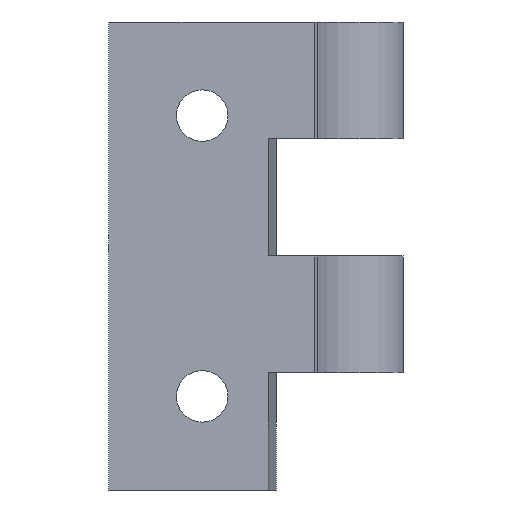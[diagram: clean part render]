
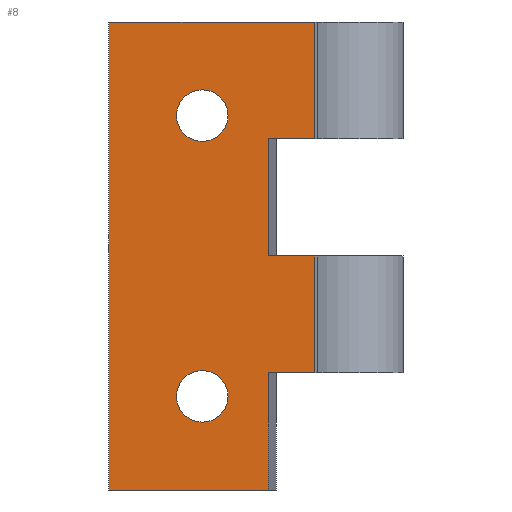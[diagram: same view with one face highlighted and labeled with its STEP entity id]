
A CAD part, front view. The second image highlights one B-rep face of the part: STEP entity #8.
In plain terms, the highlighted planar face has unit normal (0, -1, 0).
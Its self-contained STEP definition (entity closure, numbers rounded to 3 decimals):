
#3 = VERTEX_POINT ( 'NONE', #426 ) ;
#8 = ADVANCED_FACE ( 'NONE', ( #79, #70, #640 ), #489, .F. ) ;
#13 = CIRCLE ( 'NONE', #625, 2.75 ) ;
#14 = LINE ( 'NONE', #423, #365 ) ;
#19 = DIRECTION ( 'NONE',  ( 1., 0., 0. ) ) ;
#20 = CARTESIAN_POINT ( 'NONE',  ( -39.342, 5.755, 50. ) ) ;
#21 = AXIS2_PLACEMENT_3D ( 'NONE', #99, #498, #396 ) ;
#34 = CARTESIAN_POINT ( 'NONE',  ( -39.342, 5.755, 37.5 ) ) ;
#40 = VERTEX_POINT ( 'NONE', #585 ) ;
#48 = EDGE_CURVE ( 'NONE', #257, #393, #172, .T. ) ;
#54 = ORIENTED_EDGE ( 'NONE', *, *, #509, .F. ) ;
#70 = FACE_BOUND ( 'NONE', #106, .T. ) ;
#76 = VECTOR ( 'NONE', #594, 1000. ) ;
#79 = FACE_BOUND ( 'NONE', #375, .T. ) ;
#83 = LINE ( 'NONE', #348, #260 ) ;
#86 = LINE ( 'NONE', #34, #515 ) ;
#99 = CARTESIAN_POINT ( 'NONE',  ( -51.342, 5.755, 40. ) ) ;
#106 = EDGE_LOOP ( 'NONE', ( #189 ) ) ;
#107 = CARTESIAN_POINT ( 'NONE',  ( -54.092, 5.755, 10. ) ) ;
#111 = VERTEX_POINT ( 'NONE', #442 ) ;
#133 = CARTESIAN_POINT ( 'NONE',  ( -39.342, 5.755, 50. ) ) ;
#137 = EDGE_CURVE ( 'NONE', #323, #3, #548, .T. ) ;
#141 = CARTESIAN_POINT ( 'NONE',  ( -44.28, 5.755, 50. ) ) ;
#147 = ORIENTED_EDGE ( 'NONE', *, *, #259, .F. ) ;
#152 = VECTOR ( 'NONE', #19, 1000. ) ;
#153 = CARTESIAN_POINT ( 'NONE',  ( -54.092, 5.755, 40. ) ) ;
#161 = CARTESIAN_POINT ( 'NONE',  ( -61.342, 5.755, 0. ) ) ;
#168 = EDGE_CURVE ( 'NONE', #523, #523, #657, .T. ) ;
#172 = LINE ( 'NONE', #20, #483 ) ;
#176 = DIRECTION ( 'NONE',  ( 0., 0., -1. ) ) ;
#180 = DIRECTION ( 'NONE',  ( 0., 0., -1. ) ) ;
#184 = DIRECTION ( 'NONE',  ( 1., 0., 0. ) ) ;
#189 = ORIENTED_EDGE ( 'NONE', *, *, #553, .T. ) ;
#199 = ORIENTED_EDGE ( 'NONE', *, *, #387, .T. ) ;
#203 = ORIENTED_EDGE ( 'NONE', *, *, #395, .F. ) ;
#204 = CARTESIAN_POINT ( 'NONE',  ( -39.342, 5.755, 12.5 ) ) ;
#217 = VECTOR ( 'NONE', #363, 1000. ) ;
#245 = ORIENTED_EDGE ( 'NONE', *, *, #563, .T. ) ;
#254 = VERTEX_POINT ( 'NONE', #266 ) ;
#257 = VERTEX_POINT ( 'NONE', #564 ) ;
#259 = EDGE_CURVE ( 'NONE', #337, #664, #14, .T. ) ;
#260 = VECTOR ( 'NONE', #294, 1000. ) ;
#263 = CARTESIAN_POINT ( 'NONE',  ( -39.342, 5.755, 12.5 ) ) ;
#266 = CARTESIAN_POINT ( 'NONE',  ( -44.28, 5.755, 12.5 ) ) ;
#269 = EDGE_CURVE ( 'NONE', #664, #254, #368, .T. ) ;
#271 = ORIENTED_EDGE ( 'NONE', *, *, #137, .T. ) ;
#290 = VECTOR ( 'NONE', #180, 1000. ) ;
#294 = DIRECTION ( 'NONE',  ( 0., 0., 1. ) ) ;
#299 = CARTESIAN_POINT ( 'NONE',  ( -39.342, 5.755, 0. ) ) ;
#308 = ORIENTED_EDGE ( 'NONE', *, *, #629, .T. ) ;
#318 = ORIENTED_EDGE ( 'NONE', *, *, #605, .T. ) ;
#320 = ORIENTED_EDGE ( 'NONE', *, *, #48, .F. ) ;
#323 = VERTEX_POINT ( 'NONE', #161 ) ;
#337 = VERTEX_POINT ( 'NONE', #381 ) ;
#339 = CARTESIAN_POINT ( 'NONE',  ( -39.342, 5.755, 50. ) ) ;
#348 = CARTESIAN_POINT ( 'NONE',  ( -44.316, 5.755, 50. ) ) ;
#363 = DIRECTION ( 'NONE',  ( -1., 0., 0. ) ) ;
#364 = VERTEX_POINT ( 'NONE', #639 ) ;
#365 = VECTOR ( 'NONE', #521, 1000. ) ;
#368 = LINE ( 'NONE', #263, #217 ) ;
#370 = ORIENTED_EDGE ( 'NONE', *, *, #168, .T. ) ;
#375 = EDGE_LOOP ( 'NONE', ( #370 ) ) ;
#381 = CARTESIAN_POINT ( 'NONE',  ( -39.342, 5.755, 25. ) ) ;
#384 = LINE ( 'NONE', #437, #152 ) ;
#387 = EDGE_CURVE ( 'NONE', #364, #323, #434, .T. ) ;
#393 = VERTEX_POINT ( 'NONE', #479 ) ;
#395 = EDGE_CURVE ( 'NONE', #40, #337, #384, .T. ) ;
#396 = DIRECTION ( 'NONE',  ( -1., 0., 0. ) ) ;
#398 = VECTOR ( 'NONE', #492, 1000. ) ;
#408 = VECTOR ( 'NONE', #497, 1000. ) ;
#423 = CARTESIAN_POINT ( 'NONE',  ( -39.342, 5.755, 50. ) ) ;
#426 = CARTESIAN_POINT ( 'NONE',  ( -44.28, 5.755, 0. ) ) ;
#434 = LINE ( 'NONE', #529, #290 ) ;
#437 = CARTESIAN_POINT ( 'NONE',  ( -39.342, 5.755, 25. ) ) ;
#442 = CARTESIAN_POINT ( 'NONE',  ( -44.316, 5.755, 37.5 ) ) ;
#445 = LINE ( 'NONE', #339, #76 ) ;
#451 = EDGE_LOOP ( 'NONE', ( #271, #308, #528, #147, #203, #245, #318, #320, #54, #199 ) ) ;
#479 = CARTESIAN_POINT ( 'NONE',  ( -39.342, 5.755, 37.5 ) ) ;
#483 = VECTOR ( 'NONE', #176, 1000. ) ;
#489 = PLANE ( 'NONE',  #626 ) ;
#492 = DIRECTION ( 'NONE',  ( 1., 0., 0. ) ) ;
#497 = DIRECTION ( 'NONE',  ( 0., 0., 1. ) ) ;
#498 = DIRECTION ( 'NONE',  ( 0., 1., 0. ) ) ;
#500 = DIRECTION ( 'NONE',  ( 0., 1., 0. ) ) ;
#506 = CARTESIAN_POINT ( 'NONE',  ( -51.342, 5.755, 10. ) ) ;
#509 = EDGE_CURVE ( 'NONE', #364, #257, #445, .T. ) ;
#515 = VECTOR ( 'NONE', #184, 1000. ) ;
#521 = DIRECTION ( 'NONE',  ( 0., 0., -1. ) ) ;
#523 = VERTEX_POINT ( 'NONE', #153 ) ;
#528 = ORIENTED_EDGE ( 'NONE', *, *, #269, .F. ) ;
#529 = CARTESIAN_POINT ( 'NONE',  ( -61.342, 5.755, 50. ) ) ;
#530 = DIRECTION ( 'NONE',  ( 0., 1., 0. ) ) ;
#548 = LINE ( 'NONE', #299, #398 ) ;
#553 = EDGE_CURVE ( 'NONE', #559, #559, #13, .T. ) ;
#559 = VERTEX_POINT ( 'NONE', #107 ) ;
#563 = EDGE_CURVE ( 'NONE', #40, #111, #83, .T. ) ;
#564 = CARTESIAN_POINT ( 'NONE',  ( -39.342, 5.755, 50. ) ) ;
#585 = CARTESIAN_POINT ( 'NONE',  ( -44.316, 5.755, 25. ) ) ;
#592 = DIRECTION ( 'NONE',  ( -1., 0., 0. ) ) ;
#594 = DIRECTION ( 'NONE',  ( 1., 0., 0. ) ) ;
#599 = LINE ( 'NONE', #141, #408 ) ;
#605 = EDGE_CURVE ( 'NONE', #111, #393, #86, .T. ) ;
#625 = AXIS2_PLACEMENT_3D ( 'NONE', #506, #500, #653 ) ;
#626 = AXIS2_PLACEMENT_3D ( 'NONE', #133, #530, #592 ) ;
#629 = EDGE_CURVE ( 'NONE', #3, #254, #599, .T. ) ;
#639 = CARTESIAN_POINT ( 'NONE',  ( -61.342, 5.755, 50. ) ) ;
#640 = FACE_OUTER_BOUND ( 'NONE', #451, .T. ) ;
#653 = DIRECTION ( 'NONE',  ( -1., 0., 0. ) ) ;
#657 = CIRCLE ( 'NONE', #21, 2.75 ) ;
#664 = VERTEX_POINT ( 'NONE', #204 ) ;
